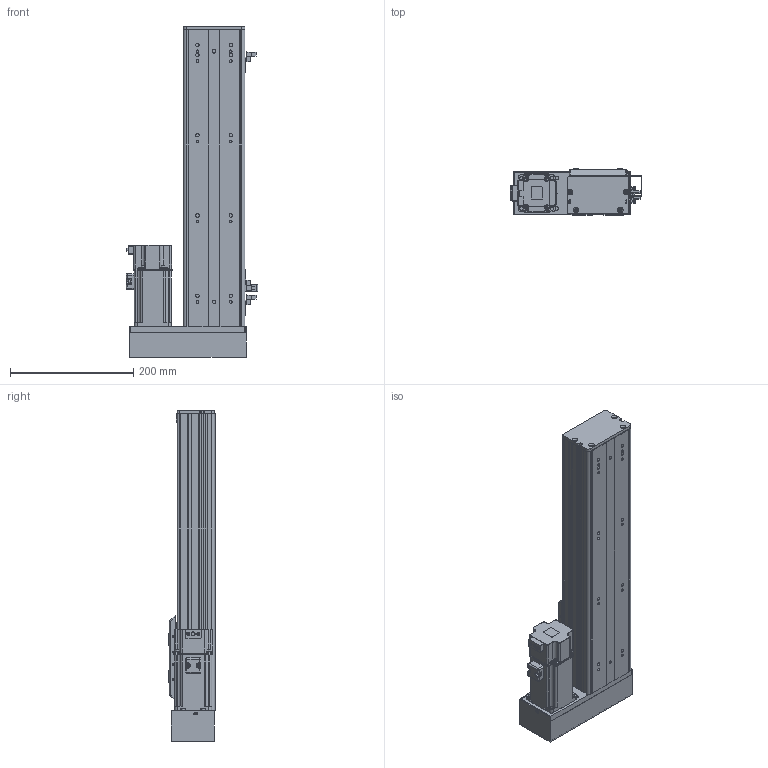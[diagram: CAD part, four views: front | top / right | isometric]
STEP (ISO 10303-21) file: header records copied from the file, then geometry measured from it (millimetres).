
FILE_DESCRIPTION (( 'STEP AP203' ), '1' );
FILE_NAME ('BOSW100-300-1610-1P-RM-M400W-O-S3（方程式2016）.step', '2020-10-10T07:16:03', ( '' ), ( '' ), 'SwSTEP 2.0', 'SolidWorks 2016', '' );
FILE_SCHEMA (( 'CONFIG_CONTROL_DESIGN' ));
Length unit declared in the file: millimetre
Products named in the file (14): BOSW-100-1P-DM-宽轨-钢带-300客户图纸; 新结构AIMSW-100-1P-宽&高轨共用-滑动座上组件; BOSW&TW-100-詩湍揤沭(陔賦凳); BOSW-100-1P-DM-300諦誧芞; BOSW-100-綴裔啣; BOSW&TW-100-1P-賑雄釱欶; S400W(SMA-L040); 放大器内置U型微型光电传感器PM-L65; boS-100-LM&RM-三菱M400W马达板-宽轨; 俋境嫖覜嘐隅啣; BOSW&TW-100-俋离覜茼え; BOSW100-300-1610-1P-RM-M400W-O-S3（方程式2016）; AIMS(W)-100-LM&RM-肮祭謫欶; BOSW-100-1P-DM-宽轨-侧板-300客户图纸
Assembly tree (19 placements, depth 2):
  BOSW100-300-1610-1P-RM-M400W-O-S3（方程式2016）
    BOSW-100-1P-DM-300諦誧芞
    BOSW-100-綴裔啣
    新结构AIMSW-100-1P-宽&高轨共用-滑动座上组件
    S400W(SMA-L040)
    BOSW&TW-100-詩湍揤沭(陔賦凳)  x2
    BOSW&TW-100-1P-賑雄釱欶
    BOSW-100-1P-DM-宽轨-侧板-300客户图纸  x2
    BOSW-100-1P-DM-宽轨-钢带-300客户图纸
    AIMS(W)-100-LM&RM-肮祭謫欶
    boS-100-LM&RM-三菱M400W马达板-宽轨
    俋境嫖覜嘐隅啣  x3
    放大器内置U型微型光电传感器PM-L65  x3
    BOSW&TW-100-俋离覜茼え
Bounding box: 213.4 x 75 x 536 mm (x, y, z)
Volume: 1350959.6 mm3; surface area: 664684.6 mm2
Topology: 19 solids, 20 shells, 2509 faces, 6621 edges, 4223 vertices
Faces by surface type: plane 1239, cylinder 784, bspline 271, cone 167, torus 36, sphere 12
Entity records: 68696 total; most frequent: CARTESIAN_POINT 20648, ORIENTED_EDGE 9782, DIRECTION 9459, EDGE_CURVE 4891, AXIS2_PLACEMENT_3D 3345, VERTEX_POINT 3125, VECTOR 2769, LINE 2769
